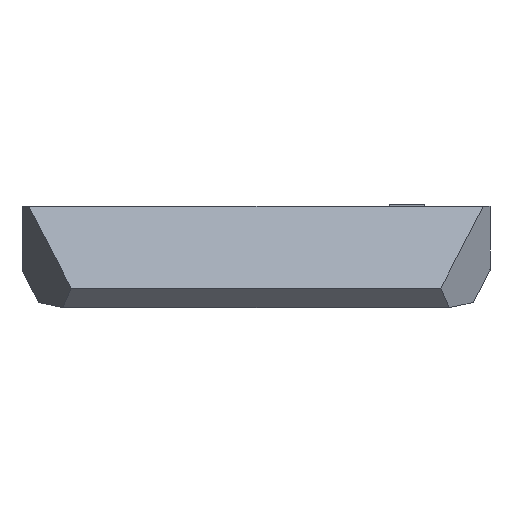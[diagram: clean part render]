
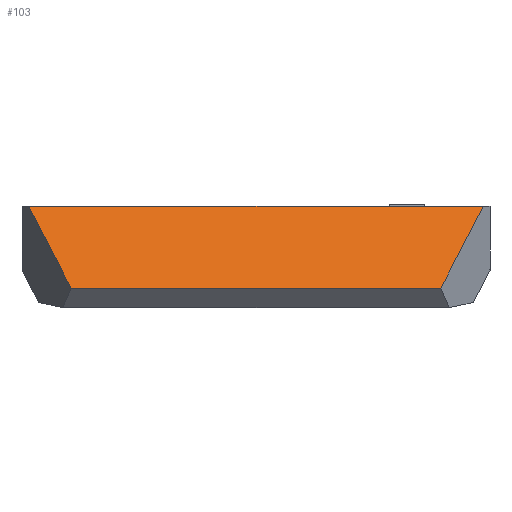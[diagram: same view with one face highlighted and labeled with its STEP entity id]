
A CAD part, front view. The second image highlights one B-rep face of the part: STEP entity #103.
In plain terms, the highlighted planar face has unit normal (0, -0.643, 0.766).
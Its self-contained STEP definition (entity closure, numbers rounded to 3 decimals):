
#103 = ADVANCED_FACE( '', ( #239 ), #240, .F. );
#239 = FACE_OUTER_BOUND( '', #404, .T. );
#240 = PLANE( '', #405 );
#404 = EDGE_LOOP( '', ( #674, #675, #676, #677 ) );
#405 = AXIS2_PLACEMENT_3D( '', #678, #679, #680 );
#674 = ORIENTED_EDGE( '', *, *, #1103, .F. );
#675 = ORIENTED_EDGE( '', *, *, #1086, .T. );
#676 = ORIENTED_EDGE( '', *, *, #1066, .T. );
#677 = ORIENTED_EDGE( '', *, *, #1104, .T. );
#678 = CARTESIAN_POINT( '', ( 65., 0., 0. ) );
#679 = DIRECTION( '', ( 0., 0.643, -0.766 ) );
#680 = DIRECTION( '', ( 0., 0.766, 0.643 ) );
#1066 = EDGE_CURVE( '', #1303, #1309, #1311, .T. );
#1086 = EDGE_CURVE( '', #1341, #1303, #1342, .T. );
#1103 = EDGE_CURVE( '', #1341, #1368, #1369, .T. );
#1104 = EDGE_CURVE( '', #1309, #1368, #1370, .T. );
#1303 = VERTEX_POINT( '', #1630 );
#1309 = VERTEX_POINT( '', #1639 );
#1311 = LINE( '', #1642, #1643 );
#1341 = VERTEX_POINT( '', #1687 );
#1342 = LINE( '', #1688, #1689 );
#1368 = VERTEX_POINT( '', #1728 );
#1369 = LINE( '', #1729, #1730 );
#1370 = LINE( '', #1731, #1732 );
#1630 = CARTESIAN_POINT( '', ( 61.647, 0., 0. ) );
#1639 = CARTESIAN_POINT( '', ( -61.647, 0., 0. ) );
#1642 = CARTESIAN_POINT( '', ( 65., 0., 0. ) );
#1643 = VECTOR( '', #1957, 1000. );
#1687 = CARTESIAN_POINT( '', ( 50.147, -26.429, -22.176 ) );
#1688 = CARTESIAN_POINT( '', ( 61.982, 0.771, 0.647 ) );
#1689 = VECTOR( '', #1975, 1000. );
#1728 = CARTESIAN_POINT( '', ( -50.147, -26.429, -22.176 ) );
#1729 = CARTESIAN_POINT( '', ( 65., -26.429, -22.176 ) );
#1730 = VECTOR( '', #1989, 1000. );
#1731 = CARTESIAN_POINT( '', ( -48.982, -29.105, -24.422 ) );
#1732 = VECTOR( '', #1990, 1000. );
#1957 = DIRECTION( '', ( -1., 0., 0. ) );
#1975 = DIRECTION( '', ( 0.316, 0.727, 0.61 ) );
#1989 = DIRECTION( '', ( -1., 0., 0. ) );
#1990 = DIRECTION( '', ( 0.316, -0.727, -0.61 ) );
